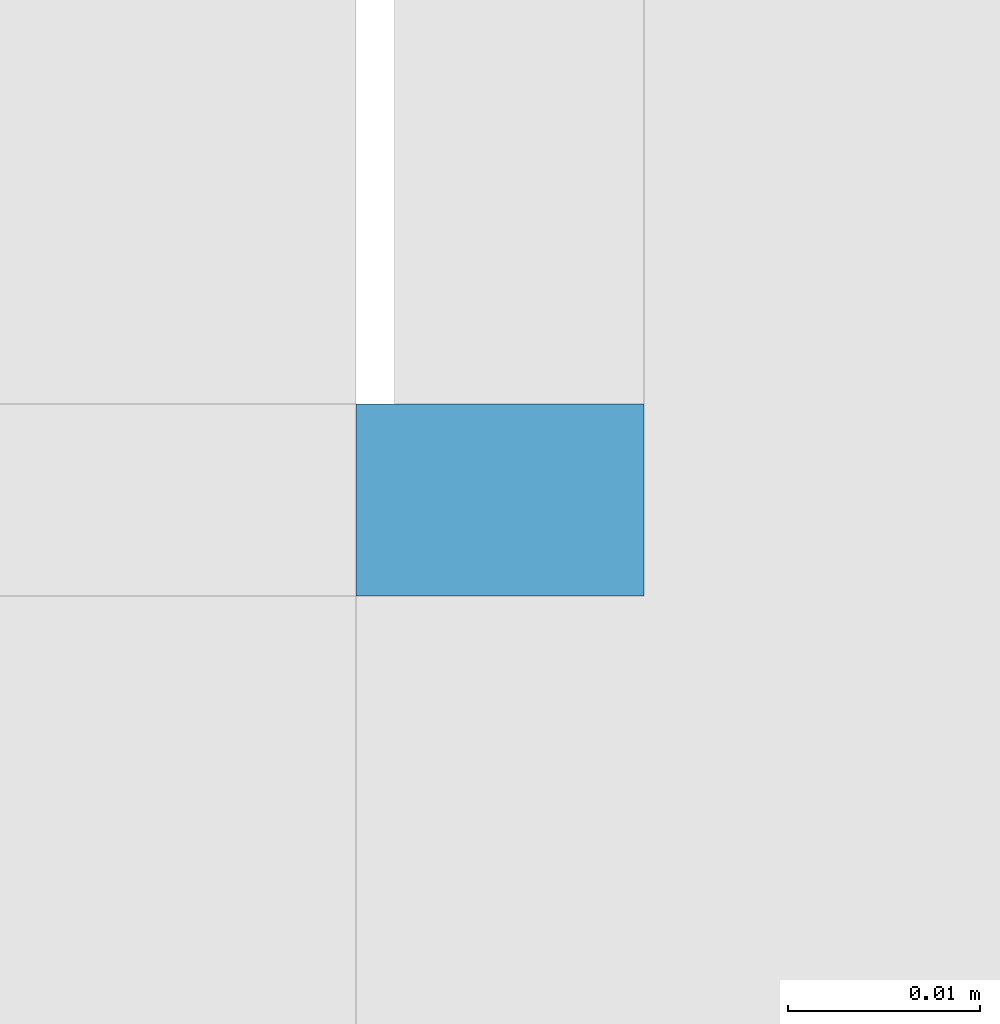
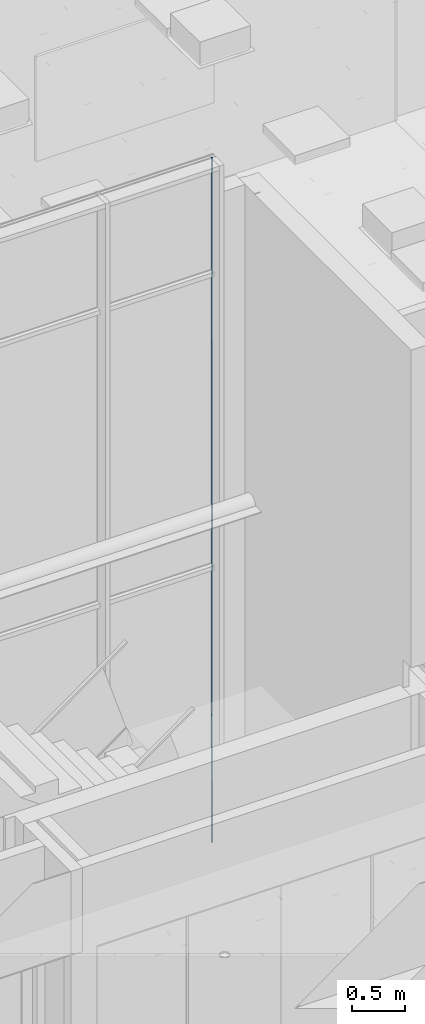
# One storey, part 109 of 347: 1 building element part, 1 element without a shape of its own.
"""IFC2X3 building model written with IfcOpenShell, lengths in millimetres."""

from ifc_helpers import new_model, entity, si_unit, converted_unit, derived_unit, money_unit, direction, frame, origin_with_axes, place, context, subcontext, project, spatial, faceted_brep, material, type_object, element, aggregate, save


model = new_model("IFC2X3")

# Units and contexts
model_context = context("Model", 3, precision=0.01, world=origin_with_axes(), true_north=direction((0.0, 1.0)))
plan_context = context("Plan", 3, precision=0.01, world=origin_with_axes(), true_north=direction((0.0, 1.0)))
body_context = subcontext(model_context, "Body", "Model", "MODEL_VIEW")
ifc_project = project(units=[si_unit("LENGTHUNIT", "METRE", prefix="MILLI"), si_unit("AREAUNIT", "SQUARE_METRE"), si_unit("VOLUMEUNIT", "CUBIC_METRE"), converted_unit("PLANEANGLEUNIT", "DEGREE", entity("IfcPlaneAngleMeasure", 0.0174532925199), si_unit("PLANEANGLEUNIT", "RADIAN"), dimensions=[0, 0, 0, 0, 0, 0, 0]), money_unit("EUR"), converted_unit("TIMEUNIT", "Year", entity("IfcTimeMeasure", 31556926.0), si_unit("TIMEUNIT", "SECOND"), dimensions=[0, 0, 1, 0, 0, 0, 0]), si_unit("MASSUNIT", "GRAM", prefix="KILO"), si_unit("THERMODYNAMICTEMPERATUREUNIT", "DEGREE_CELSIUS"), si_unit("LUMINOUSINTENSITYUNIT", "LUMEN"), si_unit("ENERGYUNIT", "JOULE", prefix="MEGA"), derived_unit("THERMALCONDUCTANCEUNIT", [(si_unit("POWERUNIT", "WATT"), 1), (si_unit("LENGTHUNIT", "METRE"), -1), (si_unit("THERMODYNAMICTEMPERATUREUNIT", "KELVIN"), -1)]), derived_unit("SPECIFICHEATCAPACITYUNIT", [(si_unit("ENERGYUNIT", "JOULE"), 1), (si_unit("MASSUNIT", "GRAM", prefix="KILO"), -1), (si_unit("THERMODYNAMICTEMPERATUREUNIT", "KELVIN"), -1)]), derived_unit("MASSDENSITYUNIT", [(si_unit("MASSUNIT", "GRAM", prefix="KILO"), 1), (si_unit("VOLUMEUNIT", "CUBIC_METRE"), -1)])], contexts=[model_context, plan_context])

# Site, building, storey
site_placement = place(None, origin_with_axes())
site = spatial("IfcSite", under=ifc_project, at=site_placement, Name="Site", CompositionType="ELEMENT")
building_placement = place(site_placement, origin_with_axes())
building = spatial("IfcBuilding", under=site, at=building_placement, Name="Naam gebouw", CompositionType="ELEMENT")
storey_placement = place(building_placement, origin_with_axes())
storey = spatial("IfcBuildingStorey", under=building, at=storey_placement, Name="begane grond", CompositionType="ELEMENT", Elevation=0.0)

# Column, building element part
column_type = type_object("IfcColumnType", Name="31 vliesgevelstijl 50 x 215", PredefinedType="COLUMN")
column_placement = place(storey_placement, frame((23809.9999999, 18400.0, 0.0), z_axis=(0.0, 0.0, 1.0), x_axis=(1.0, 0.0, 0.0)))
column = element("IfcColumn", 1, at=column_placement, inside=storey, type_object=column_type, Name="28_kolom ø 275mm", ObjectType="COLUMN")
ifc_material = material(Name="Membraan - rubber")
building_element_part_placement = place(column_placement, origin_with_axes())
building_element_part = element("IfcBuildingElementPart", 2, at=building_element_part_placement, material=ifc_material, Name="Membraan - rubber", context=body_context, shape_type="Brep", body=[
    faceted_brep([(-25.0, 150.000000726, 7840.0), (-25.0, 160.000000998, 7840.0), (-25.0, 160.000000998, 0.0), (-25.0, 150.000000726, 0.0), (-9.99999992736, 160.000000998, 7840.0), (-23.0000002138, 160.000000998, 7840.0), (-9.99999992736, 150.000000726, 7840.0), (-23.0000002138, 160.000000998, 0.0), (-9.99999992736, 150.000000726, 0.0), (-9.99999992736, 160.000000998, 0.0)], [[[0, 1, 2, 3]], [[4, 5, 1, 0, 6]], [[1, 5, 7, 2]], [[8, 3, 2, 7, 9]], [[6, 0, 3, 8]], [[5, 4, 9, 7]], [[4, 6, 8, 9]]]),
])
aggregate(column, [building_element_part])

save(model, "model.ifc")
